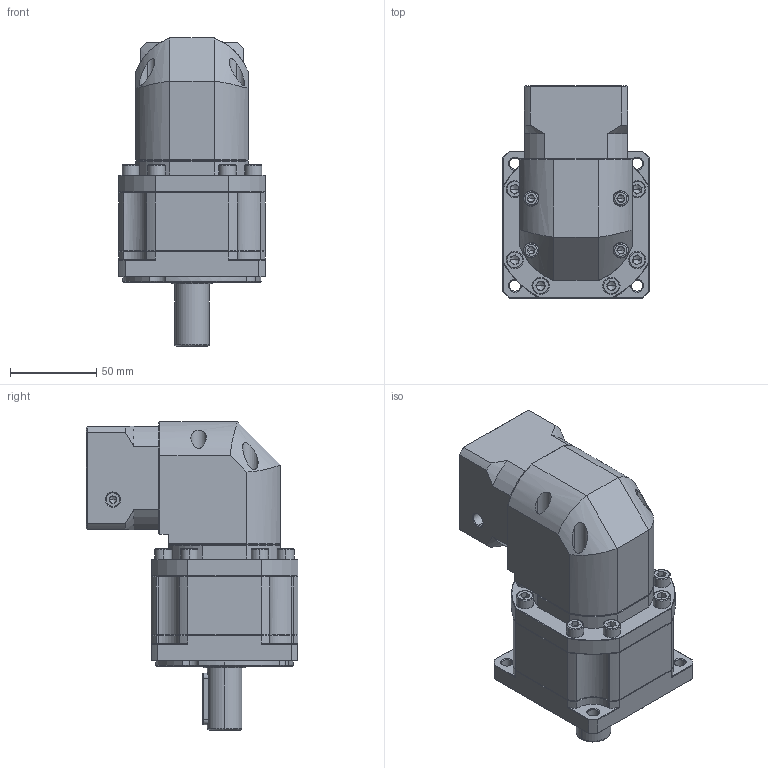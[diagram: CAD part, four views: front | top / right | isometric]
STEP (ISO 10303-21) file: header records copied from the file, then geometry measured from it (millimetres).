
FILE_DESCRIPTION (( 'STEP AP214' ), '1' );
FILE_NAME ('ZBR090-D20-L2-P2-8-30-46-M4.step', '2023-08-19T03:55:41', ( '' ), ( '' ), 'SwSTEP 2.0', 'SolidWorks 2016', '' );
FILE_SCHEMA (( 'AUTOMOTIVE_DESIGN' ));
Length unit declared in the file: millimetre
Products named in the file (1): ZBR090-D20-L2-P2-8-30-46-M4
Bounding box: 85 x 122.7 x 178.5 mm (x, y, z)
Volume: 807072 mm3; surface area: 101060 mm2
Topology: 5 solids, 5 shells, 2482 faces, 6618 edges, 4243 vertices
Faces by surface type: plane 1176, bspline 490, cylinder 429, cone 367, torus 20
Entity records: 147291 total; most frequent: CARTESIAN_POINT 61974, ORIENTED_EDGE 13160, DIRECTION 10335, EDGE_CURVE 6580, VERTEX_POINT 4243, VECTOR 4013, LINE 4013, AXIS2_PLACEMENT_3D 3161
